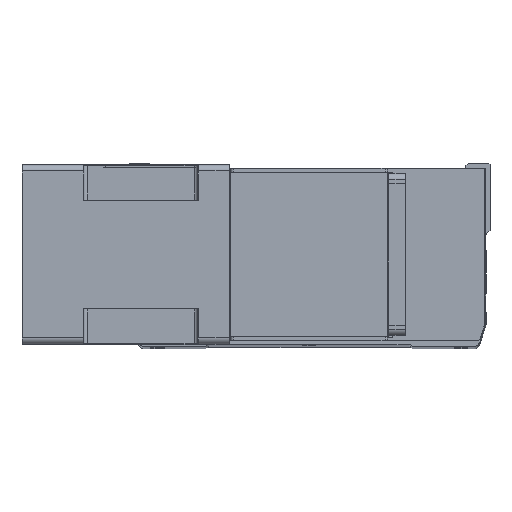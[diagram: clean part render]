
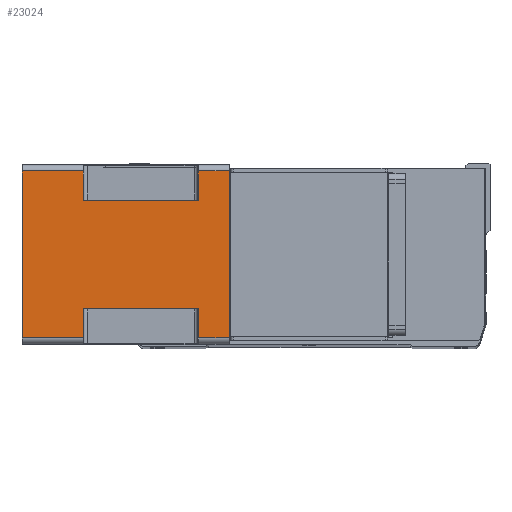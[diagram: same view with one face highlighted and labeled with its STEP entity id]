
A CAD part, top view. The second image highlights one B-rep face of the part: STEP entity #23024.
In plain terms, the highlighted planar face has unit normal (0, 0, 1) as drawn and (-1, 0, 0) by its records, which use the part's own axes.
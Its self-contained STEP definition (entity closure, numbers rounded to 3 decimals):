
#153 = ORIENTED_EDGE ( 'NONE', *, *, #36784, .F. ) ;
#1366 = VERTEX_POINT ( 'NONE', #36101 ) ;
#1919 = ORIENTED_EDGE ( 'NONE', *, *, #12435, .F. ) ;
#1974 = DIRECTION ( 'NONE',  ( 0., 0., 1. ) ) ;
#2781 = ORIENTED_EDGE ( 'NONE', *, *, #10385, .T. ) ;
#4102 = DIRECTION ( 'NONE',  ( 0., 0., 1. ) ) ;
#4501 = VECTOR ( 'NONE', #9403, 1000. ) ;
#5818 = LINE ( 'NONE', #41395, #8939 ) ;
#6375 = VERTEX_POINT ( 'NONE', #29122 ) ;
#7207 = ORIENTED_EDGE ( 'NONE', *, *, #15223, .T. ) ;
#7675 = DIRECTION ( 'NONE',  ( 0., -1., 0. ) ) ;
#8069 = DIRECTION ( 'NONE',  ( -1., 0., 0. ) ) ;
#8939 = VECTOR ( 'NONE', #34664, 1000. ) ;
#9295 = DIRECTION ( 'NONE',  ( 0., 0., 1. ) ) ;
#9336 = VERTEX_POINT ( 'NONE', #25757 ) ;
#9403 = DIRECTION ( 'NONE',  ( 0., 0., 1. ) ) ;
#9568 = VERTEX_POINT ( 'NONE', #28343 ) ;
#9593 = DIRECTION ( 'NONE',  ( 0., 0., 1. ) ) ;
#10224 = CARTESIAN_POINT ( 'NONE',  ( -71., 66., -115.5 ) ) ;
#10344 = ORIENTED_EDGE ( 'NONE', *, *, #18389, .F. ) ;
#10385 = EDGE_CURVE ( 'NONE', #9336, #13531, #16134, .T. ) ;
#10541 = LINE ( 'NONE', #24403, #27399 ) ;
#11072 = CARTESIAN_POINT ( 'NONE',  ( -71., 66., -164. ) ) ;
#12162 = CARTESIAN_POINT ( 'NONE',  ( -71., -66., 0. ) ) ;
#12435 = EDGE_CURVE ( 'NONE', #1366, #6375, #10541, .T. ) ;
#12642 = CARTESIAN_POINT ( 'NONE',  ( -71., 66., -164. ) ) ;
#12838 = LINE ( 'NONE', #22246, #30201 ) ;
#12883 = VERTEX_POINT ( 'NONE', #31372 ) ;
#13258 = CARTESIAN_POINT ( 'NONE',  ( -71., 66., -164. ) ) ;
#13437 = VECTOR ( 'NONE', #9295, 1000. ) ;
#13531 = VERTEX_POINT ( 'NONE', #24122 ) ;
#13671 = VECTOR ( 'NONE', #14772, 1000. ) ;
#13829 = DIRECTION ( 'NONE',  ( 0., 1., 0. ) ) ;
#14131 = CARTESIAN_POINT ( 'NONE',  ( -71., 43., -24.5 ) ) ;
#14772 = DIRECTION ( 'NONE',  ( 0., 1., 0. ) ) ;
#15223 = EDGE_CURVE ( 'NONE', #37766, #15766, #36430, .T. ) ;
#15766 = VERTEX_POINT ( 'NONE', #38216 ) ;
#16095 = ORIENTED_EDGE ( 'NONE', *, *, #33234, .T. ) ;
#16134 = LINE ( 'NONE', #14131, #35071 ) ;
#18270 = EDGE_CURVE ( 'NONE', #12883, #9568, #12838, .T. ) ;
#18389 = EDGE_CURVE ( 'NONE', #33717, #13531, #25994, .T. ) ;
#19126 = CARTESIAN_POINT ( 'NONE',  ( -71., 43., -164. ) ) ;
#19296 = CARTESIAN_POINT ( 'NONE',  ( -71., 43., -115.5 ) ) ;
#19452 = AXIS2_PLACEMENT_3D ( 'NONE', #31304, #8069, #31594 ) ;
#19744 = ORIENTED_EDGE ( 'NONE', *, *, #40197, .F. ) ;
#20268 = ORIENTED_EDGE ( 'NONE', *, *, #33705, .F. ) ;
#22246 = CARTESIAN_POINT ( 'NONE',  ( -71., -66., -164. ) ) ;
#22990 = LINE ( 'NONE', #36428, #24065 ) ;
#23024 = ADVANCED_FACE ( 'NONE', ( #27697 ), #35264, .T. ) ;
#23082 = DIRECTION ( 'NONE',  ( 0., -1., 0. ) ) ;
#24065 = VECTOR ( 'NONE', #23082, 1000. ) ;
#24122 = CARTESIAN_POINT ( 'NONE',  ( -71., 43., -24.5 ) ) ;
#24403 = CARTESIAN_POINT ( 'NONE',  ( -71., -43., -164. ) ) ;
#24678 = EDGE_CURVE ( 'NONE', #41750, #37766, #5818, .T. ) ;
#25550 = DIRECTION ( 'NONE',  ( 0., -1., 0. ) ) ;
#25757 = CARTESIAN_POINT ( 'NONE',  ( -71., 66., -24.5 ) ) ;
#25994 = LINE ( 'NONE', #19126, #4501 ) ;
#26319 = ORIENTED_EDGE ( 'NONE', *, *, #43512, .T. ) ;
#26749 = VERTEX_POINT ( 'NONE', #10224 ) ;
#27399 = VECTOR ( 'NONE', #38063, 1000. ) ;
#27673 = ORIENTED_EDGE ( 'NONE', *, *, #18270, .T. ) ;
#27697 = FACE_OUTER_BOUND ( 'NONE', #28827, .T. ) ;
#28343 = CARTESIAN_POINT ( 'NONE',  ( -71., -66., 0. ) ) ;
#28827 = EDGE_LOOP ( 'NONE', ( #7207, #30455, #1919, #16095, #27673, #153, #19744, #2781, #10344, #26319, #20268, #42157 ) ) ;
#29122 = CARTESIAN_POINT ( 'NONE',  ( -71., -43., -115.5 ) ) ;
#29257 = LINE ( 'NONE', #12642, #13437 ) ;
#30201 = VECTOR ( 'NONE', #1974, 1000. ) ;
#30455 = ORIENTED_EDGE ( 'NONE', *, *, #39942, .T. ) ;
#30527 = LINE ( 'NONE', #38736, #13671 ) ;
#31094 = CARTESIAN_POINT ( 'NONE',  ( -71., -66., -164. ) ) ;
#31304 = CARTESIAN_POINT ( 'NONE',  ( -71., -66., -164. ) ) ;
#31372 = CARTESIAN_POINT ( 'NONE',  ( -71., -66., -24.5 ) ) ;
#31594 = DIRECTION ( 'NONE',  ( 0., -1., 0. ) ) ;
#32548 = LINE ( 'NONE', #12162, #36761 ) ;
#33234 = EDGE_CURVE ( 'NONE', #1366, #12883, #22990, .T. ) ;
#33564 = VECTOR ( 'NONE', #13829, 1000. ) ;
#33705 = EDGE_CURVE ( 'NONE', #41750, #26749, #29257, .T. ) ;
#33717 = VERTEX_POINT ( 'NONE', #19296 ) ;
#34004 = CARTESIAN_POINT ( 'NONE',  ( -71., -66., -115.5 ) ) ;
#34261 = CARTESIAN_POINT ( 'NONE',  ( -71., 66., 0. ) ) ;
#34664 = DIRECTION ( 'NONE',  ( 0., -1., 0. ) ) ;
#35071 = VECTOR ( 'NONE', #7675, 1000. ) ;
#35264 = PLANE ( 'NONE',  #19452 ) ;
#36101 = CARTESIAN_POINT ( 'NONE',  ( -71., -43., -24.5 ) ) ;
#36428 = CARTESIAN_POINT ( 'NONE',  ( -71., -66., -24.5 ) ) ;
#36430 = LINE ( 'NONE', #31094, #39625 ) ;
#36761 = VECTOR ( 'NONE', #25550, 1000. ) ;
#36784 = EDGE_CURVE ( 'NONE', #39280, #9568, #32548, .T. ) ;
#37766 = VERTEX_POINT ( 'NONE', #42207 ) ;
#38063 = DIRECTION ( 'NONE',  ( 0., 0., -1. ) ) ;
#38216 = CARTESIAN_POINT ( 'NONE',  ( -71., -66., -115.5 ) ) ;
#38736 = CARTESIAN_POINT ( 'NONE',  ( -71., -43., -115.5 ) ) ;
#39280 = VERTEX_POINT ( 'NONE', #34261 ) ;
#39625 = VECTOR ( 'NONE', #4102, 1000. ) ;
#39812 = VECTOR ( 'NONE', #9593, 1000. ) ;
#39942 = EDGE_CURVE ( 'NONE', #15766, #6375, #30527, .T. ) ;
#40197 = EDGE_CURVE ( 'NONE', #9336, #39280, #41356, .T. ) ;
#41356 = LINE ( 'NONE', #13258, #39812 ) ;
#41395 = CARTESIAN_POINT ( 'NONE',  ( -71., -66., -164. ) ) ;
#41750 = VERTEX_POINT ( 'NONE', #11072 ) ;
#42157 = ORIENTED_EDGE ( 'NONE', *, *, #24678, .T. ) ;
#42207 = CARTESIAN_POINT ( 'NONE',  ( -71., -66., -164. ) ) ;
#42477 = LINE ( 'NONE', #34004, #33564 ) ;
#43512 = EDGE_CURVE ( 'NONE', #33717, #26749, #42477, .T. ) ;
